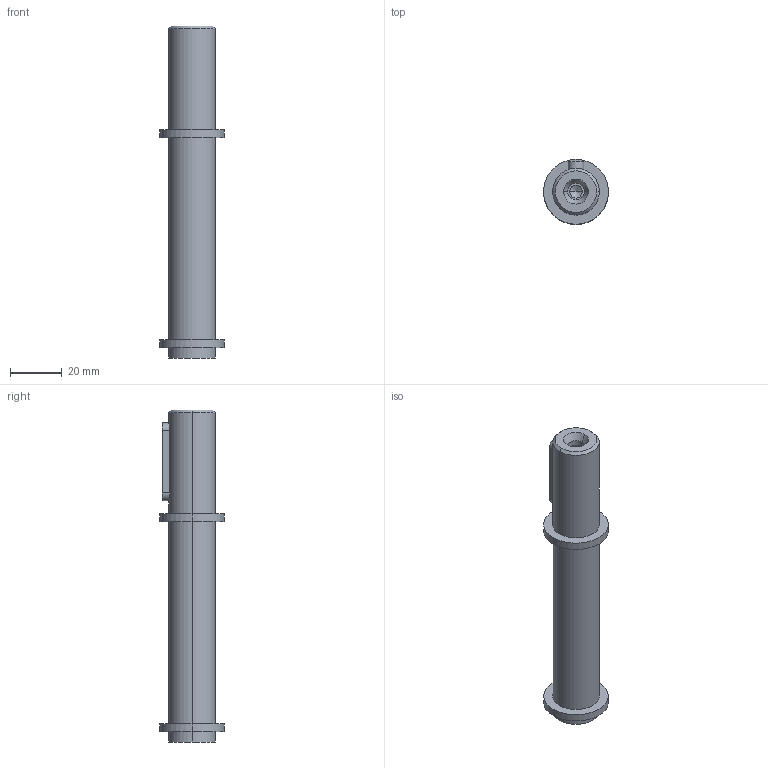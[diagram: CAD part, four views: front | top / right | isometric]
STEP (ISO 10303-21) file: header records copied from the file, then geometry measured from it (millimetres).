
FILE_DESCRIPTION(/* description */ (''),/* implementation_level */ '2;1');
FILE_NAME(/* name */ '6_ALBERO LENTO SEMPLICE NMRV040',/* time_stamp */ '2025-10-09T14:24:49+02:00',/* author */ (''),/* organization */ (''),/* preprocessor_version */ 'ST-DEVELOPER v19.2',/* originating_system */ 'Rhino 8.23',/* authorisation */ '');
FILE_SCHEMA (('CONFIG_CONTROL_DESIGN'));
Length unit declared in the file: millimetre
Products named in the file (2): Document; AL 040-18(1-1)
Bounding box: 25 x 25 x 128 mm (x, y, z)
Volume: 33899.1 mm3; surface area: 9319 mm2
Topology: 1 solids, 1 shells, 32 faces, 66 edges, 41 vertices
Faces by surface type: cylinder 16, plane 10, bspline 6
Entity records: 1108 total; most frequent: CARTESIAN_POINT 303, ORIENTED_EDGE 128, DIRECTION 102, EDGE_CURVE 64, AXIS2_PLACEMENT_3D 64, VERTEX_POINT 41, EDGE_LOOP 39, TRIMMED_CURVE 34
